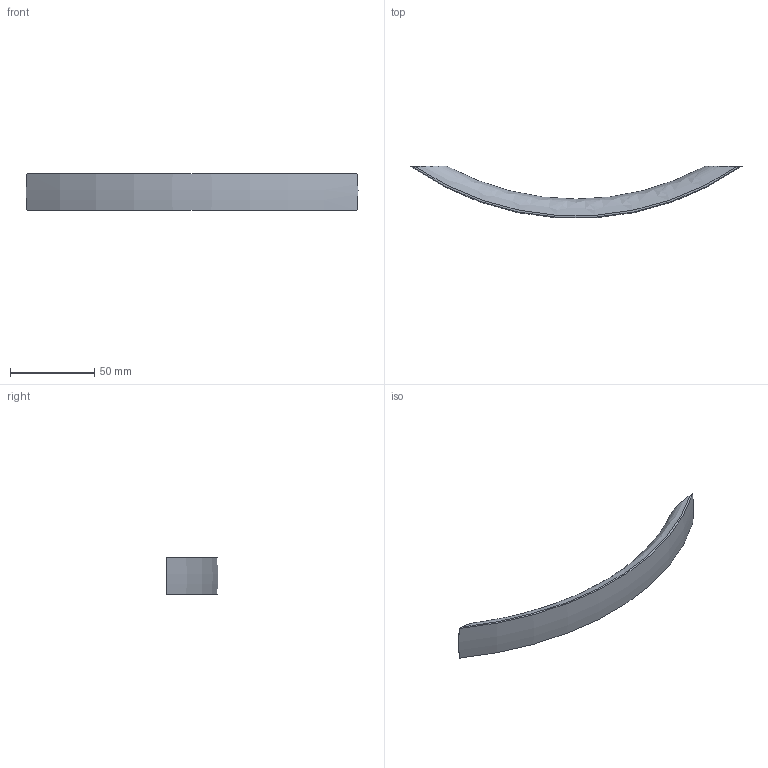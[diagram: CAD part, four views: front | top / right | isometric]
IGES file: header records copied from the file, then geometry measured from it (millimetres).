
Start section: Data from Parasolid IGES Translator 15.0.47, Copyright(c) 2006 Siemens P LM Software. All Rights Reserved.
Global section: file name: 9113330.igs; native system:  By UGS Corp.; preprocessor: XPlus GENERIC/IGES 3.0; author: Noname; organization: Noname; date: 20140122.160402; units: millimetre
Bounding box: 196.68 x 30.6 x 21.5 mm (x, y, z)
Surface area: 18879.6 mm2 (no closed solid volume)
Topology: 0 solids, 0 shells, 25 faces, 126 edges, 124 vertices
Faces by surface type: revolution 17, extrusion 8
